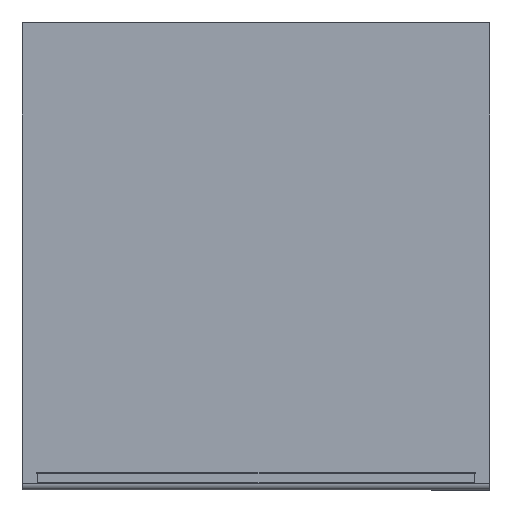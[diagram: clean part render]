
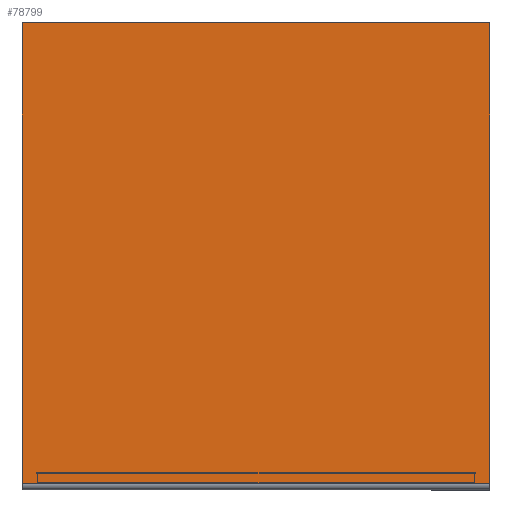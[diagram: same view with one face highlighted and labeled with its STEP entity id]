
A CAD part, top view. The second image highlights one B-rep face of the part: STEP entity #78799.
In plain terms, the highlighted planar face has unit normal (0, 0, 1).
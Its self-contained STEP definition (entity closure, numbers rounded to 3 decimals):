
#20225=ORIENTED_EDGE('',*,*,#33592,.F.);
#20226=ORIENTED_EDGE('',*,*,#33593,.T.);
#20227=ORIENTED_EDGE('',*,*,#33594,.T.);
#20228=ORIENTED_EDGE('',*,*,#33595,.T.);
#33592=EDGE_CURVE('',#41732,#41741,#50580,.T.);
#33593=EDGE_CURVE('',#41732,#41738,#50581,.T.);
#33594=EDGE_CURVE('',#41738,#41742,#50582,.T.);
#33595=EDGE_CURVE('',#41742,#41741,#50583,.T.);
#41732=VERTEX_POINT('',#123378);
#41738=VERTEX_POINT('',#123391);
#41741=VERTEX_POINT('',#123399);
#41742=VERTEX_POINT('',#123402);
#50580=LINE('',#123398,#59293);
#50581=LINE('',#123400,#59294);
#50582=LINE('',#123401,#59295);
#50583=LINE('',#123403,#59296);
#59293=VECTOR('',#101406,1000.);
#59294=VECTOR('',#101407,1000.);
#59295=VECTOR('',#101408,1000.);
#59296=VECTOR('',#101409,1000.);
#65361=EDGE_LOOP('',(#20225,#20226,#20227,#20228));
#71501=FACE_BOUND('',#65361,.T.);
#75378=PLANE('',#84198);
#78799=ADVANCED_FACE('',(#71501),#75378,.T.);
#84198=AXIS2_PLACEMENT_3D('',#123397,#101404,#101405);
#101404=DIRECTION('',(0.,0.,1.));
#101405=DIRECTION('',(0.,-1.,0.));
#101406=DIRECTION('',(1.,0.,0.));
#101407=DIRECTION('',(0.,-1.,0.));
#101408=DIRECTION('',(1.,0.,0.));
#101409=DIRECTION('',(0.,1.,0.));
#123378=CARTESIAN_POINT('',(-380.298,374.648,21.));
#123391=CARTESIAN_POINT('',(-380.298,-375.35,21.));
#123397=CARTESIAN_POINT('',(-381.,375.35,21.));
#123398=CARTESIAN_POINT('',(-381.,374.648,21.));
#123399=CARTESIAN_POINT('',(380.298,374.648,21.));
#123400=CARTESIAN_POINT('',(-380.298,374.648,21.));
#123401=CARTESIAN_POINT('',(-381.,-375.35,21.));
#123402=CARTESIAN_POINT('',(380.298,-375.35,21.));
#123403=CARTESIAN_POINT('',(380.298,-375.35,21.));
